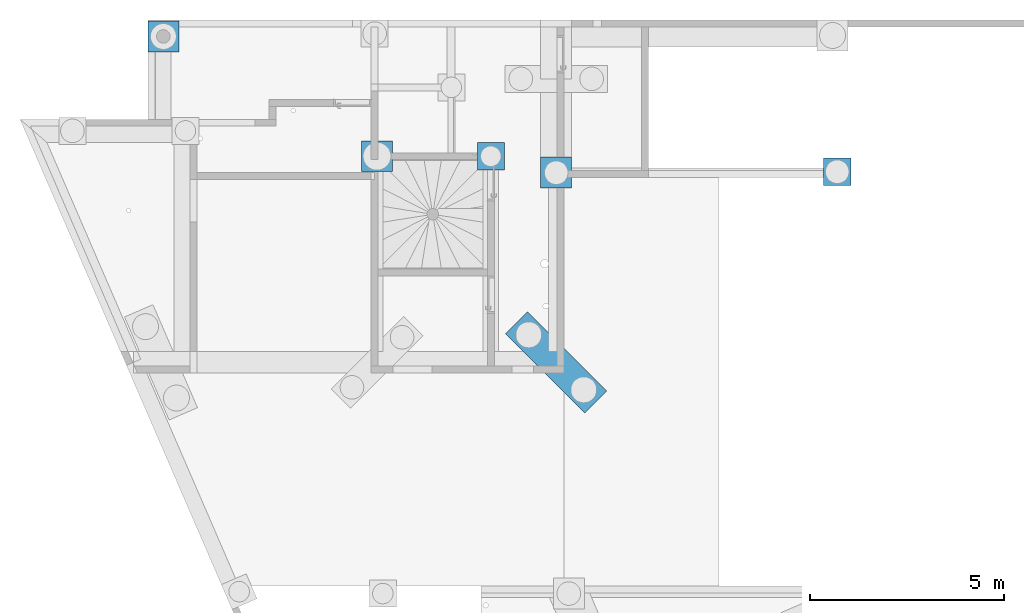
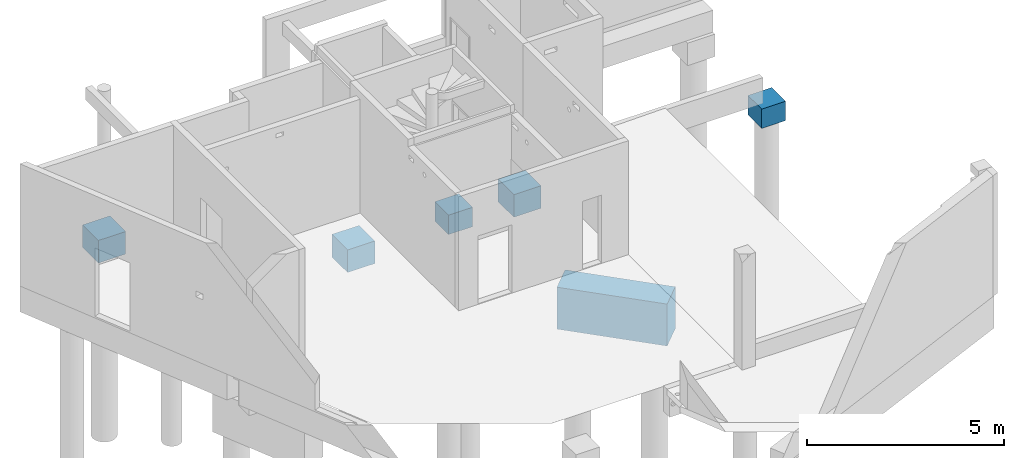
# One storey, part 11 of 29: 6 slabs.
"""IFC2X3 building model written with IfcOpenShell, lengths in centimetres."""

from ifc_helpers import new_model, entity, si_unit, converted_unit, derived_unit, direction, frame, origin, place, context, subcontext, project, spatial, faceted_brep, material, element, save


model = new_model("IFC2X3")

# Units and contexts
model_context = context("Model", 3, precision=0.001, world=origin(), true_north=direction((6.12303176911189e-17, 1.0)))
body_context = subcontext(model_context, "Body", "Model", "MODEL_VIEW")
ifc_project = project(units=[si_unit("LENGTHUNIT", "METRE", prefix="CENTI"), si_unit("AREAUNIT", "SQUARE_METRE"), si_unit("VOLUMEUNIT", "CUBIC_METRE"), converted_unit("PLANEANGLEUNIT", "DEGREE", entity("IfcRatioMeasure", 0.0174532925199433), si_unit("PLANEANGLEUNIT", "RADIAN"), dimensions=[0, 0, 0, 0, 0, 0, 0]), si_unit("MASSUNIT", "GRAM", prefix="KILO"), derived_unit("MASSDENSITYUNIT", [(si_unit("MASSUNIT", "GRAM", prefix="KILO"), 1), (si_unit("LENGTHUNIT", "METRE"), -3)]), si_unit("TIMEUNIT", "SECOND"), si_unit("FREQUENCYUNIT", "HERTZ"), si_unit("THERMODYNAMICTEMPERATUREUNIT", "DEGREE_CELSIUS"), derived_unit("THERMALTRANSMITTANCEUNIT", [(si_unit("MASSUNIT", "GRAM", prefix="KILO"), 1), (si_unit("THERMODYNAMICTEMPERATUREUNIT", "KELVIN"), -1), (si_unit("TIMEUNIT", "SECOND"), -3)]), derived_unit("VOLUMETRICFLOWRATEUNIT", [(si_unit("LENGTHUNIT", "METRE"), 3), (si_unit("TIMEUNIT", "SECOND"), -1)]), si_unit("ELECTRICCURRENTUNIT", "AMPERE"), si_unit("ELECTRICVOLTAGEUNIT", "VOLT"), si_unit("POWERUNIT", "WATT"), si_unit("FORCEUNIT", "NEWTON"), si_unit("ILLUMINANCEUNIT", "LUX"), si_unit("LUMINOUSFLUXUNIT", "LUMEN"), si_unit("LUMINOUSINTENSITYUNIT", "CANDELA"), derived_unit("USERDEFINED", [(si_unit("MASSUNIT", "GRAM", prefix="KILO"), -1), (si_unit("LENGTHUNIT", "METRE"), -2), (si_unit("TIMEUNIT", "SECOND"), 3), (si_unit("LUMINOUSFLUXUNIT", "LUMEN"), 1)]), derived_unit("LINEARVELOCITYUNIT", [(si_unit("LENGTHUNIT", "METRE"), 1), (si_unit("TIMEUNIT", "SECOND"), -1)]), si_unit("PRESSUREUNIT", "PASCAL"), derived_unit("USERDEFINED", [(si_unit("LENGTHUNIT", "METRE"), -2), (si_unit("MASSUNIT", "GRAM", prefix="KILO"), 1), (si_unit("TIMEUNIT", "SECOND"), -2)])], contexts=[model_context])

# Site, building, storey
site_placement = place(None, origin())
site = spatial("IfcSite", under=ifc_project, at=site_placement, Name="Default", CompositionType="ELEMENT")
building_placement = place(site_placement, origin())
building = spatial("IfcBuilding", under=site, at=building_placement, Name="CAGE 03", CompositionType="ELEMENT")
storey_placement = place(building_placement, frame((0.0, 0.0, -34.0)))
storey = spatial("IfcBuildingStorey", under=building, at=storey_placement, Name="+3.66", CompositionType="ELEMENT", Elevation=-34.0000000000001)

# Slabs
ifc_material = material(Name="Béton, C25/30")
slab_1_placement = place(storey_placement, frame((3077.36582014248, 5211.16066607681, -155.0)))
element("IfcSlab", 1, at=slab_1_placement, inside=storey, material=ifc_material, Name="M_Base-Rectangulaire:80x80x70ht", ObjectType="M_Base-Rectangulaire:80x80x70ht", PredefinedType="BASESLAB", context=body_context, shape_type="Brep", body=[
    faceted_brep([(80.0, 80.0, 70.0), (0.0, 80.0, 70.0), (0.0, 64.4999999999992, 70.0), (0.0, 0.0, 70.0), (80.0, 0.0, 70.0), (0.0, 0.0, 0.0), (15.2432012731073, 17.4311959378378, 0.0), (22.2051484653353, 14.7341232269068, 0.0), (29.1670956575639, 12.0370505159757, 0.0), (36.129042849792, 9.33997780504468, 0.0), (43.0909900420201, 6.64290509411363, 0.0), (80.0, 0.0, 0.0), (13.0574009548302, 23.0733969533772, 0.0), (10.8716006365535, 28.7155979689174, 0.0), (8.6858003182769, 34.3577989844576, 0.0), (6.49999999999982, 40.0, 0.0), (0.0, 80.0, 0.0), (8.68580031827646, 45.6422010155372, 0.0), (10.871600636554, 51.2844020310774, 0.0), (13.057400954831, 56.9266030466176, 0.0), (15.2432012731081, 62.568804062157, 0.0), (20.659653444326, 65.265876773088, 0.0), (26.0761056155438, 67.9629494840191, 0.0), (31.4925577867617, 70.6600221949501, 0.0), (36.9090099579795, 73.3570949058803, 0.0), (80.0, 80.0, 0.0), (73.5000000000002, 40.0, 0.0), (71.3141996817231, 45.6422010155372, 0.0), (43.8709571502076, 70.6600221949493, 0.0), (50.8329043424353, 67.9629494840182, 0.0), (57.7948515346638, 65.265876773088, 0.0), (64.7567987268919, 62.568804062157, 0.0), (69.128399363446, 51.2844020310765, 0.0), (66.942599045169, 56.9266030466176, 0.0), (48.5074422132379, 9.33997780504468, 0.0), (53.9238943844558, 12.0370505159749, 0.0), (59.3403465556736, 14.7341232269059, 0.0), (64.7567987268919, 17.431195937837, 0.0), (66.942599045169, 23.0733969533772, 0.0), (69.128399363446, 28.7155979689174, 0.0), (71.3141996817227, 34.3577989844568, 0.0), (64.7567987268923, 17.431195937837, 5.0), (57.7948515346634, 14.7341232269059, 5.0), (50.8329043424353, 12.0370505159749, 5.0), (43.8709571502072, 9.33997780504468, 5.0), (36.9090099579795, 6.64290509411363, 5.0), (31.4925577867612, 9.33997780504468, 5.0), (26.0761056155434, 12.0370505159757, 5.0), (20.6596534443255, 14.7341232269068, 5.0), (15.2432012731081, 17.4311959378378, 5.0), (13.0574009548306, 23.073396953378, 5.0), (10.8716006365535, 28.7155979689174, 5.0), (9.32055531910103, 32.7193074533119, 5.0), (6.50000000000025, 40.0, 5.0), (9.32055531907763, 47.2806925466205, 5.0), (10.871600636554, 51.2844020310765, 5.0), (13.057400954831, 56.9266030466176, 5.0), (15.2432012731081, 62.568804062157, 5.0), (22.2051484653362, 65.265876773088, 5.0), (29.1670956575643, 67.9629494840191, 5.0), (36.1290428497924, 70.6600221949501, 5.0), (43.0909900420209, 73.3570949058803, 5.0), (48.5074422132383, 70.6600221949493, 5.0), (53.9238943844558, 67.9629494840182, 5.0), (59.3403465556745, 65.265876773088, 5.0), (64.7567987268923, 62.568804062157, 5.0), (66.942599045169, 56.9266030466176, 5.0), (69.128399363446, 51.2844020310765, 5.0), (70.6794446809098, 47.2806925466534, 5.0), (73.5000000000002, 40.0, 5.0), (70.6794446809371, 32.7193074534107, 5.0), (69.128399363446, 28.7155979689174, 5.0), (66.942599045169, 23.0733969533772, 5.0)], [[[0, 1, 2, 3, 4]], [[5, 6, 7]], [[5, 7, 8]], [[5, 8, 9]], [[5, 9, 10]], [[5, 10, 11]], [[5, 12, 6]], [[5, 13, 12]], [[5, 14, 13]], [[5, 15, 14]], [[16, 15, 5]], [[16, 17, 15]], [[16, 18, 17]], [[16, 19, 18]], [[16, 20, 19]], [[16, 21, 20]], [[16, 22, 21]], [[16, 23, 22]], [[16, 24, 23]], [[25, 24, 16]], [[11, 26, 25]], [[25, 26, 27]], [[25, 28, 24]], [[25, 29, 28]], [[25, 30, 29]], [[25, 31, 30]], [[25, 27, 32]], [[25, 32, 33]], [[25, 33, 31]], [[11, 10, 34]], [[11, 34, 35]], [[11, 35, 36]], [[11, 36, 37]], [[11, 37, 38]], [[11, 38, 39]], [[11, 39, 40]], [[11, 40, 26]], [[2, 1, 16, 5, 3]], [[4, 3, 5, 11]], [[0, 4, 11, 25]], [[1, 0, 25, 16]], [[41, 42, 43, 44, 45, 46, 47, 48, 49, 50, 51, 52, 53, 54, 55, 56, 57, 58, 59, 60, 61, 62, 63, 64, 65, 66, 67, 68, 69, 70, 71, 72]], [[14, 15, 53, 52, 51, 50, 49, 6, 12, 13]], [[40, 39, 38, 37, 41, 72, 71, 70, 69, 26]], [[49, 48, 6]], [[48, 47, 7]], [[37, 36, 41]], [[43, 34, 44]], [[36, 42, 41]], [[10, 9, 45]], [[8, 7, 47]], [[48, 7, 6]], [[36, 35, 42]], [[42, 35, 43]], [[8, 46, 9]], [[10, 44, 34]], [[43, 35, 34]], [[45, 9, 46]], [[8, 47, 46]], [[10, 45, 44]], [[27, 26, 69, 68, 67, 66, 65, 31, 33, 32]], [[17, 18, 19, 20, 57, 56, 55, 54, 53, 15]], [[65, 64, 31]], [[64, 63, 30]], [[20, 21, 57]], [[59, 23, 60]], [[21, 58, 57]], [[24, 28, 61]], [[29, 30, 63]], [[64, 30, 31]], [[21, 22, 58]], [[58, 22, 59]], [[29, 62, 28]], [[24, 60, 23]], [[59, 22, 23]], [[61, 28, 62]], [[29, 63, 62]], [[24, 61, 60]]]),
])
slab_2_placement = place(storey_placement, frame((3629.36582014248, 4901.66066607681, -190.0)))
element("IfcSlab", 2, at=slab_2_placement, inside=storey, material=ifc_material, Name="M_Base-Rectangulaire:80x80x70ht", ObjectType="M_Base-Rectangulaire:80x80x70ht", PredefinedType="BASESLAB", context=body_context, shape_type="Brep", body=[
    faceted_brep([(80.0, 80.0, 70.0), (0.0, 80.0, 70.0), (0.0, 0.0, 70.0), (80.0, 0.0, 70.0), (0.0, 0.0, 0.0), (4.0, 40.0, 0.0), (6.34891974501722, 33.9367392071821, 0.0), (0.0, 80.0, 0.0), (8.69783949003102, 27.8734784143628, 0.0), (11.0467592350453, 21.8102176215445, 0.0), (13.3956789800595, 15.7469568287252, 0.0), (20.8771744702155, 12.8486100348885, 0.0), (28.3586699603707, 9.95026324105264, 0.0), (35.8401654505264, 7.05191644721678, 0.0), (43.3216609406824, 4.15356965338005, 0.0), (80.0, 0.0, 0.0), (6.34891974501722, 46.0632607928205, 0.0), (8.69783949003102, 52.1265215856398, 0.0), (11.0467592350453, 58.1897823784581, 0.0), (13.3956789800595, 64.2530431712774, 0.0), (19.2163439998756, 67.1513899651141, 0.0), (25.0370090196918, 70.04973675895, 0.0), (30.8576740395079, 72.9480835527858, 0.0), (36.6783390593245, 75.8464303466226, 0.0), (80.0, 80.0, 0.0), (76.0, 40.0, 0.0), (73.6510802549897, 46.0632607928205, 0.0), (71.302160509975, 52.1265215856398, 0.0), (68.9532407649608, 58.1897823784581, 0.0), (66.604321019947, 64.2530431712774, 0.0), (59.1228255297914, 67.1513899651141, 0.0), (51.6413300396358, 70.04973675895, 0.0), (44.1598345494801, 72.9480835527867, 0.0), (49.1423259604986, 7.05191644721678, 0.0), (54.9629909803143, 9.95026324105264, 0.0), (60.7836560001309, 12.8486100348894, 0.0), (66.604321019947, 15.7469568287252, 0.0), (68.9532407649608, 21.8102176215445, 0.0), (71.302160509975, 27.8734784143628, 0.0), (73.6510802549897, 33.9367392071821, 0.0), (28.3586699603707, 9.95026324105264, 5.0), (35.8401654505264, 7.05191644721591, 5.0), (43.321660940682, 4.15356965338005, 5.0), (13.3956789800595, 15.7469568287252, 5.0), (20.8771744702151, 12.8486100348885, 5.0), (66.604321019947, 15.7469568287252, 5.0), (68.9532407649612, 21.8102176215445, 5.0), (71.302160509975, 27.8734784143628, 5.0), (73.076093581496, 32.4525275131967, 5.0), (76.0, 40.0, 5.0), (4.0, 40.0, 5.0), (6.92390641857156, 32.4525275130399, 5.0), (9.8478128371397, 24.9050550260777, 5.0), (49.1423259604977, 7.05191644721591, 5.0), (54.9629909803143, 9.95026324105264, 5.0), (60.7836560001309, 12.8486100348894, 5.0), (66.604321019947, 64.2530431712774, 5.0), (59.1228255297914, 67.1513899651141, 5.0), (51.6413300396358, 70.04973675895, 5.0), (44.1598345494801, 72.9480835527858, 5.0), (36.6783390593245, 75.8464303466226, 5.0), (13.3956789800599, 64.2530431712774, 5.0), (11.0467592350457, 58.189782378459, 5.0), (8.69783949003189, 52.1265215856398, 5.0), (6.92390641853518, 47.5474724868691, 5.0), (73.0760935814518, 47.547472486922, 5.0), (70.1521871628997, 55.0949449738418, 5.0), (30.8576740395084, 72.9480835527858, 5.0), (25.0370090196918, 70.04973675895, 5.0), (19.2163439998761, 67.1513899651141, 5.0)], [[[0, 1, 2, 3]], [[4, 5, 6]], [[5, 4, 7]], [[4, 6, 8]], [[4, 8, 9]], [[4, 9, 10]], [[4, 10, 11]], [[4, 11, 12]], [[4, 12, 13]], [[4, 13, 14]], [[14, 15, 4]], [[7, 16, 5]], [[7, 17, 16]], [[7, 18, 17]], [[7, 19, 18]], [[7, 20, 19]], [[7, 21, 20]], [[7, 22, 21]], [[7, 23, 22]], [[23, 7, 24]], [[25, 24, 15]], [[24, 25, 26]], [[24, 26, 27]], [[24, 27, 28]], [[24, 28, 29]], [[24, 29, 30]], [[24, 30, 31]], [[24, 31, 32]], [[24, 32, 23]], [[15, 14, 33]], [[15, 33, 34]], [[15, 34, 35]], [[15, 35, 36]], [[15, 36, 37]], [[15, 37, 38]], [[15, 38, 39]], [[15, 39, 25]], [[2, 1, 7, 4]], [[3, 2, 4, 15]], [[0, 3, 15, 24]], [[1, 0, 24, 7]], [[40, 41, 42, 14, 13, 12, 11, 10, 43, 44]], [[39, 38, 37, 36, 45, 46, 47, 48, 49, 25]], [[10, 9, 8, 6, 5, 50, 51, 52, 43]], [[33, 14, 42, 53, 54, 55, 45, 36, 35, 34]], [[30, 29, 56, 57, 58, 59, 60, 23, 32, 31]], [[16, 17, 18, 19, 61, 62, 63, 64, 50, 5]], [[29, 28, 27, 26, 25, 49, 65, 66, 56]], [[22, 23, 60, 67, 68, 69, 61, 19, 20, 21]], [[50, 64, 63, 62, 61, 69, 68, 67, 60, 59, 58, 57, 56, 66, 65, 49, 48, 47, 46, 45, 55, 54, 53, 42, 41, 40, 44, 43, 52, 51]]]),
])
slab_3_placement = place(storey_placement, frame((3928.36582014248, 4906.66066607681, -180.0)))
element("IfcSlab", 3, at=slab_3_placement, inside=storey, material=ifc_material, Name="M_Base-Rectangulaire:70x70x60ht", ObjectType="M_Base-Rectangulaire:70x70x60ht", PredefinedType="BASESLAB", context=body_context, shape_type="Brep", body=[
    faceted_brep([(70.0, 70.0, 60.0), (0.0, 70.0, 60.0), (0.0, 0.0, 60.0), (70.0, 0.0, 60.0), (0.0, 0.0, 0.0), (8.50000000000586, 35.0, 0.0), (10.6920097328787, 30.0766655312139, 0.0), (0.0, 70.0, 0.0), (12.8840194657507, 25.1533310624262, 0.0), (15.0760291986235, 20.2299965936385, 0.0), (17.2680389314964, 15.3066621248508, 0.0), (22.3935302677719, 13.6412890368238, 0.0), (27.5190216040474, 11.9759159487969, 0.0), (32.6445129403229, 10.3105428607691, 0.0), (37.7700042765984, 8.64516977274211, 0.0), (70.0, 0.0, 0.0), (11.0305248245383, 42.7881545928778, 0.0), (13.5610496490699, 50.5763091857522, 0.0), (18.2282861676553, 53.2709394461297, 0.0), (22.8955226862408, 55.9655697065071, 0.0), (27.5627592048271, 58.6601999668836, 0.0), (32.2299957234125, 61.354830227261, 0.0), (70.0, 70.0, 0.0), (61.5000000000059, 35.0, 0.0), (59.3079902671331, 39.9233344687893, 0.0), (57.1159805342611, 44.846668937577, 0.0), (54.9239708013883, 49.7700034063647, 0.0), (52.7319610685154, 54.6933378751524, 0.0), (47.6064697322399, 56.3587109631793, 0.0), (42.4809783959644, 58.0240840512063, 0.0), (37.355487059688, 59.6894571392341, 0.0), (42.4372407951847, 11.3398000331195, 0.0), (47.1044773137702, 14.0344302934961, 0.0), (51.7717138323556, 16.7290605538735, 0.0), (56.4389503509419, 19.4236908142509, 0.0), (58.9694751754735, 27.2118454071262, 0.0), (8.50000000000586, 35.0, 5.0), (11.3061340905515, 28.6973196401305, 5.0), (14.1122681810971, 22.3946392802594, 5.0), (17.2680389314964, 15.3066621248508, 5.0), (37.7700042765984, 8.64516977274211, 5.0), (42.4372407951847, 11.3398000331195, 5.0), (47.1044773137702, 14.0344302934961, 5.0), (51.7717138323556, 16.7290605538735, 5.0), (56.4389503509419, 19.4236908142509, 5.0), (32.6445129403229, 10.3105428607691, 5.0), (22.3935302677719, 13.6412890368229, 5.0), (27.5190216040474, 11.9759159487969, 5.0), (58.9694751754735, 27.2118454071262, 5.0), (61.5000000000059, 35.0, 5.0), (58.6938659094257, 41.3026803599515, 5.0), (55.8877318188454, 47.6053607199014, 5.0), (52.7319610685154, 54.6933378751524, 5.0), (32.2299957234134, 61.354830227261, 5.0), (27.5627592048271, 58.6601999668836, 5.0), (22.8955226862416, 55.9655697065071, 5.0), (18.2282861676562, 53.2709394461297, 5.0), (13.5610496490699, 50.5763091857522, 5.0), (37.3554870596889, 59.6894571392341, 5.0), (47.6064697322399, 56.3587109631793, 5.0), (42.4809783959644, 58.0240840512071, 5.0), (11.0305248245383, 42.7881545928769, 5.0)], [[[0, 1, 2, 3]], [[4, 5, 6]], [[5, 4, 7]], [[4, 6, 8]], [[4, 8, 9]], [[4, 9, 10]], [[4, 10, 11]], [[4, 11, 12]], [[4, 12, 13]], [[4, 13, 14]], [[14, 15, 4]], [[7, 16, 5]], [[7, 17, 16]], [[7, 18, 17]], [[7, 19, 18]], [[7, 20, 19]], [[7, 21, 20]], [[21, 7, 22]], [[23, 22, 15]], [[22, 23, 24]], [[22, 24, 25]], [[22, 25, 26]], [[22, 26, 27]], [[22, 27, 28]], [[22, 28, 29]], [[22, 29, 30]], [[22, 30, 21]], [[15, 14, 31]], [[15, 31, 32]], [[15, 32, 33]], [[15, 33, 34]], [[15, 34, 35]], [[15, 35, 23]], [[2, 1, 7, 4]], [[3, 2, 4, 15]], [[0, 3, 15, 22]], [[1, 0, 22, 7]], [[10, 9, 8, 6, 5, 36, 37, 38, 39]], [[33, 32, 31, 14, 40, 41, 42, 43, 44, 34]], [[45, 40, 14, 13, 12, 11, 10, 39, 46, 47]], [[35, 34, 44, 48, 49, 23]], [[27, 26, 25, 24, 23, 49, 50, 51, 52]], [[18, 19, 20, 21, 53, 54, 55, 56, 57, 17]], [[58, 53, 21, 30, 29, 28, 27, 52, 59, 60]], [[16, 17, 57, 61, 36, 5]], [[39, 38, 37, 36, 61, 57, 56, 55, 54, 53, 58, 60, 59, 52, 51, 50, 49, 48, 44, 43, 42, 41, 40, 45, 47, 46]]]),
])
slab_4_placement = place(storey_placement, frame((4092.36582014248, 4859.16066607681, -155.0)))
element("IfcSlab", 4, at=slab_4_placement, inside=storey, material=ifc_material, Name="M_Base-Rectangulaire:80x80x70ht", ObjectType="M_Base-Rectangulaire:80x80x70ht", PredefinedType="BASESLAB", context=body_context, shape_type="Brep", body=[
    faceted_brep([(80.0, 80.0, 70.0), (0.0, 80.0, 70.0), (0.0, 27.4999999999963, 70.0), (0.0, 0.0, 70.0), (80.0, 0.0, 70.0), (80.0, 27.4999999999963, 70.0), (0.0, 0.0, 0.0), (18.4332431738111, 18.4332431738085, 0.0), (23.824932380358, 16.1999323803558, 0.0), (29.2166215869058, 13.9666215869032, 0.0), (34.6083107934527, 11.7333107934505, 0.0), (40.0, 9.49999999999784, 0.0), (80.0, 0.0, 0.0), (16.1999323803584, 23.8249323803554, 0.0), (13.9666215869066, 29.2166215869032, 0.0), (11.733310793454, 34.6083107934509, 0.0), (9.50000000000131, 40.0, 0.0), (0.0, 80.0, 0.0), (11.733310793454, 45.3916892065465, 0.0), (13.9666215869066, 50.7833784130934, 0.0), (16.1999323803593, 56.1750676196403, 0.0), (18.433243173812, 61.566756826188, 0.0), (23.8249323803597, 63.8000676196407, 0.0), (29.2166215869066, 66.0333784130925, 0.0), (34.6083107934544, 68.266689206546, 0.0), (40.0, 70.4999999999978, 0.0), (80.0, 80.0, 0.0), (70.5000000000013, 40.0, 0.0), (68.2666892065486, 45.3916892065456, 0.0), (45.3916892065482, 68.2666892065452, 0.0), (50.783378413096, 66.0333784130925, 0.0), (56.1750676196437, 63.8000676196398, 0.0), (61.5667568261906, 61.5667568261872, 0.0), (66.033378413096, 50.7833784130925, 0.0), (63.8000676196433, 56.1750676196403, 0.0), (45.3916892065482, 11.7333107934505, 0.0), (50.7833784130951, 13.9666215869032, 0.0), (56.1750676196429, 16.199932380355, 0.0), (61.5667568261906, 18.4332431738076, 0.0), (63.8000676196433, 23.8249323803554, 0.0), (66.033378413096, 29.2166215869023, 0.0), (68.2666892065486, 34.6083107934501, 0.0), (40.0, 70.4999999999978, 5.0), (45.3916892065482, 68.2666892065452, 5.0), (50.783378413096, 66.0333784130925, 5.0), (56.1750676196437, 63.8000676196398, 5.0), (61.5667568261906, 61.5667568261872, 5.0), (64.8147856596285, 53.7253215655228, 5.0), (67.6573928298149, 46.8626607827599, 5.0), (70.5000000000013, 40.0, 5.0), (67.6573928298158, 33.1373392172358, 5.0), (66.033378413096, 29.2166215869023, 5.0), (63.8000676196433, 23.8249323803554, 5.0), (61.5667568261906, 18.4332431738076, 5.0), (56.1750676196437, 16.199932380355, 5.0), (50.783378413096, 13.9666215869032, 5.0), (45.3916892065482, 11.7333107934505, 5.0), (40.0, 9.49999999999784, 5.0), (34.6083107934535, 11.7333107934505, 5.0), (29.2166215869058, 13.9666215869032, 5.0), (23.8249323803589, 16.1999323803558, 5.0), (18.4332431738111, 18.4332431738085, 5.0), (15.1852143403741, 26.274678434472, 5.0), (12.3426071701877, 33.1373392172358, 5.0), (9.50000000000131, 40.0, 5.0), (12.3426071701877, 46.8626607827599, 5.0), (13.9666215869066, 50.7833784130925, 5.0), (16.1999323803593, 56.1750676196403, 5.0), (18.433243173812, 61.5667568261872, 5.0), (23.8249323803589, 63.8000676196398, 5.0), (29.2166215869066, 66.0333784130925, 5.0), (34.6083107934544, 68.2666892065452, 5.0)], [[[0, 1, 2, 3, 4, 5]], [[6, 7, 8]], [[6, 8, 9]], [[6, 9, 10]], [[6, 10, 11]], [[6, 11, 12]], [[6, 13, 7]], [[6, 14, 13]], [[6, 15, 14]], [[6, 16, 15]], [[17, 16, 6]], [[17, 18, 16]], [[17, 19, 18]], [[17, 20, 19]], [[17, 21, 20]], [[17, 22, 21]], [[17, 23, 22]], [[17, 24, 23]], [[17, 25, 24]], [[26, 25, 17]], [[12, 27, 26]], [[26, 27, 28]], [[26, 29, 25]], [[26, 30, 29]], [[26, 31, 30]], [[26, 32, 31]], [[26, 28, 33]], [[26, 33, 34]], [[26, 34, 32]], [[12, 11, 35]], [[12, 35, 36]], [[12, 36, 37]], [[12, 37, 38]], [[12, 38, 39]], [[12, 39, 40]], [[12, 40, 41]], [[12, 41, 27]], [[2, 1, 17, 6, 3]], [[4, 3, 6, 12]], [[5, 4, 12, 26, 0]], [[1, 0, 26, 17]], [[42, 43, 44, 45, 46, 47, 48, 49, 50, 51, 52, 53, 54, 55, 56, 57, 58, 59, 60, 61, 62, 63, 64, 65, 66, 67, 68, 69, 70, 71]], [[7, 61, 60, 59, 58, 57, 11, 10, 9, 8]], [[41, 40, 39, 38, 53, 52, 51, 50, 49, 27]], [[7, 13, 14, 15, 16, 64, 63, 62, 61]], [[35, 11, 57, 56, 55, 54, 53, 38, 37, 36]], [[32, 46, 45, 44, 43, 42, 25, 29, 30, 31]], [[18, 19, 20, 21, 68, 67, 66, 65, 64, 16]], [[32, 34, 33, 28, 27, 49, 48, 47, 46]], [[24, 25, 42, 71, 70, 69, 68, 21, 22, 23]]]),
])
slab_5_placement = place(storey_placement, frame((4823.36582014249, 4866.66066607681, -140.0)))
element("IfcSlab", 5, at=slab_5_placement, inside=storey, material=ifc_material, Name="M_Base-Rectangulaire:70x70x60ht", ObjectType="M_Base-Rectangulaire:70x70x60ht", PredefinedType="BASESLAB", context=body_context, shape_type="Brep", body=[
    faceted_brep([(70.0, 70.0, 60.0), (0.0, 70.0, 60.0), (0.0, 0.0, 60.0), (70.0, 0.0, 60.0), (0.0, 0.0, 0.0), (4.49999999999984, 35.0, 0.0), (6.73331079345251, 29.6083107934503, 0.0), (0.0, 70.0, 0.0), (8.9666215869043, 24.2166215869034, 0.0), (11.199932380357, 18.8249323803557, 0.0), (13.4332431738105, 13.4332431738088, 0.0), (18.8249323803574, 11.1999323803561, 0.0), (24.2166215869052, 8.96662158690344, 0.0), (29.6083107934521, 6.73331079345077, 0.0), (35.0, 4.49999999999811, 0.0), (70.0, 0.0, 0.0), (6.73331079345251, 40.391689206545, 0.0), (8.9666215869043, 45.7833784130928, 0.0), (11.199932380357, 51.1750676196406, 0.0), (13.4332431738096, 56.5667568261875, 0.0), (18.8249323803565, 58.8000676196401, 0.0), (24.2166215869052, 61.0333784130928, 0.0), (29.6083107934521, 63.2666892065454, 0.0), (35.0, 65.4999999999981, 0.0), (70.0, 70.0, 0.0), (65.4999999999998, 35.0, 0.0), (63.2666892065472, 40.3916892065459, 0.0), (61.0333784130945, 45.7833784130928, 0.0), (58.8000676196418, 51.1750676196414, 0.0), (56.5667568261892, 56.5667568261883, 0.0), (51.1750676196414, 58.800067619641, 0.0), (45.7833784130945, 61.0333784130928, 0.0), (40.3916892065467, 63.2666892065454, 0.0), (40.3916892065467, 6.73331079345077, 0.0), (45.7833784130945, 8.96662158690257, 0.0), (51.1750676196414, 11.1999323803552, 0.0), (56.5667568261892, 13.4332431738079, 0.0), (58.8000676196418, 18.8249323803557, 0.0), (61.0333784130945, 24.2166215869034, 0.0), (63.2666892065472, 29.6083107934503, 0.0), (35.0, 65.4999999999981, 5.0), (40.3916892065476, 63.2666892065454, 5.0), (45.7833784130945, 61.0333784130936, 5.0), (51.1750676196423, 58.8000676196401, 5.0), (56.5667568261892, 56.5667568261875, 5.0), (59.814785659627, 48.7253215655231, 5.0), (62.6573928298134, 41.8626607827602, 5.0), (65.4999999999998, 35.0, 5.0), (62.6573928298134, 28.137339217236, 5.0), (61.0333784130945, 24.2166215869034, 5.0), (58.8000676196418, 18.8249323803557, 5.0), (56.5667568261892, 13.4332431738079, 5.0), (51.1750676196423, 11.1999323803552, 5.0), (45.7833784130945, 8.96662158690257, 5.0), (40.3916892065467, 6.73331079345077, 5.0), (35.0, 4.49999999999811, 5.0), (29.6083107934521, 6.73331079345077, 5.0), (24.2166215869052, 8.96662158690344, 5.0), (18.8249323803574, 11.1999323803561, 5.0), (13.4332431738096, 13.4332431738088, 5.0), (10.1852143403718, 21.2746784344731, 5.0), (7.34260717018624, 28.137339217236, 5.0), (4.49999999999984, 35.0, 5.0), (7.34260717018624, 41.8626607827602, 5.0), (8.9666215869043, 45.7833784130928, 5.0), (11.1999323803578, 51.1750676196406, 5.0), (13.4332431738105, 56.5667568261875, 5.0), (18.8249323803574, 58.8000676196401, 5.0), (24.2166215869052, 61.0333784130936, 5.0), (29.6083107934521, 63.2666892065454, 5.0)], [[[0, 1, 2, 3]], [[4, 5, 6]], [[5, 4, 7]], [[4, 6, 8]], [[4, 8, 9]], [[4, 9, 10]], [[4, 10, 11]], [[4, 11, 12]], [[4, 12, 13]], [[4, 13, 14]], [[14, 15, 4]], [[7, 16, 5]], [[7, 17, 16]], [[7, 18, 17]], [[7, 19, 18]], [[7, 20, 19]], [[7, 21, 20]], [[7, 22, 21]], [[7, 23, 22]], [[23, 7, 24]], [[25, 24, 15]], [[24, 25, 26]], [[24, 26, 27]], [[24, 27, 28]], [[24, 28, 29]], [[24, 29, 30]], [[24, 30, 31]], [[24, 31, 32]], [[24, 32, 23]], [[15, 14, 33]], [[15, 33, 34]], [[15, 34, 35]], [[15, 35, 36]], [[15, 36, 37]], [[15, 37, 38]], [[15, 38, 39]], [[15, 39, 25]], [[2, 1, 7, 4]], [[3, 2, 4, 15]], [[0, 3, 15, 24]], [[1, 0, 24, 7]], [[40, 41, 42, 43, 44, 45, 46, 47, 48, 49, 50, 51, 52, 53, 54, 55, 56, 57, 58, 59, 60, 61, 62, 63, 64, 65, 66, 67, 68, 69]], [[10, 59, 58, 57, 56, 55, 14, 13, 12, 11]], [[39, 38, 37, 36, 51, 50, 49, 48, 47, 25]], [[10, 9, 8, 6, 5, 62, 61, 60, 59]], [[33, 14, 55, 54, 53, 52, 51, 36, 35, 34]], [[29, 44, 43, 42, 41, 40, 23, 32, 31, 30]], [[16, 17, 18, 19, 66, 65, 64, 63, 62, 5]], [[29, 28, 27, 26, 25, 47, 46, 45, 44]], [[22, 23, 40, 69, 68, 67, 66, 19, 20, 21]]]),
])
slab_6_placement = place(storey_placement, frame((4001.55106562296, 4278.3459115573, -242.0)))
element("IfcSlab", 6, at=slab_6_placement, inside=storey, material=ifc_material, Name="M_Base-Rectangulaire:290x80x130ht", ObjectType="M_Base-Rectangulaire:290x80x130ht", PredefinedType="BASESLAB", context=body_context, shape_type="Brep", body=[
    faceted_brep([(56.5685424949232, 261.629509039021, 130.0), (0.0, 205.060966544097, 130.0), (205.060966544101, 0.0, 130.0), (261.629509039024, 56.5685424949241, 130.0), (224.447790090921, 84.5073217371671, 0.0), (82.3193270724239, 226.635784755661, 0.0), (56.5685424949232, 261.629509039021, 0.0), (261.629509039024, 56.5685424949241, 0.0), (85.016399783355, 221.219332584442, 0.0), (87.7134724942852, 215.802880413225, 0.0), (90.4105452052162, 210.386428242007, 0.0), (93.1076179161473, 204.969976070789, 0.0), (218.805589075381, 86.6931220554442, 0.0), (227.144862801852, 79.0908695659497, 0.0), (213.163388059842, 88.8789223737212, 0.0), (207.521187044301, 91.0647226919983, 0.0), (201.878986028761, 93.2505230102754, 0.0), (196.236785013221, 91.0647226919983, 0.0), (190.594583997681, 88.8789223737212, 0.0), (184.952382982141, 86.6931220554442, 0.0), (179.310181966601, 84.5073217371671, 0.0), (90.4105452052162, 198.008028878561, 0.0), (87.7134724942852, 191.046081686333, 0.0), (85.016399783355, 184.084134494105, 0.0), (82.3193270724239, 177.122187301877, 0.0), (176.61310925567, 77.545374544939, 0.0), (173.91603654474, 70.5834273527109, 0.0), (171.218963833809, 63.6214801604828, 0.0), (168.521891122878, 56.6595329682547, 0.0), (76.6771260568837, 174.9363869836, 0.0), (71.0349250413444, 172.750586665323, 0.0), (65.3927240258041, 170.564786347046, 0.0), (59.7505230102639, 168.378986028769, 0.0), (54.1083219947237, 170.564786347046, 0.0), (48.4661209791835, 172.750586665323, 0.0), (42.8239199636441, 174.9363869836, 0.0), (37.1817189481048, 177.122187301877, 0.0), (171.218963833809, 51.2430807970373, 0.0), (173.91603654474, 45.826628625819, 0.0), (176.613109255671, 40.4101764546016, 0.0), (179.310181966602, 34.9937242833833, 0.0), (205.060966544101, 0.0, 0.0), (184.952382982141, 32.8079239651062, 0.0), (190.594583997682, 30.6221236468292, 0.0), (196.236785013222, 28.4363233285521, 0.0), (201.878986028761, 26.250523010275, 0.0), (207.521187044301, 28.4363233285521, 0.0), (213.163388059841, 30.6221236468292, 0.0), (218.805589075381, 32.8079239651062, 0.0), (224.447790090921, 34.9937242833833, 0.0), (227.144862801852, 41.9556714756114, 0.0), (229.841935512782, 48.9176186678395, 0.0), (232.539008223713, 55.8795658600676, 0.0), (235.236080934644, 62.8415130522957, 0.0), (232.539008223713, 68.2579652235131, 0.0), (229.841935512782, 73.6744173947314, 0.0), (0.0, 205.060966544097, 0.0), (37.1817189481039, 226.635784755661, 0.0), (34.4846462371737, 219.673837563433, 0.0), (34.4846462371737, 182.538639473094, 0.0), (31.7875735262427, 187.955091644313, 0.0), (29.0905008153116, 193.371543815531, 0.0), (26.3934281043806, 198.787995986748, 0.0), (31.7875735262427, 212.711890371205, 0.0), (29.0905008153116, 205.749943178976, 0.0), (76.6771260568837, 228.821585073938, 0.0), (71.0349250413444, 231.007385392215, 0.0), (65.3927240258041, 233.193185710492, 0.0), (59.7505230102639, 235.378986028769, 0.0), (54.1083219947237, 233.193185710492, 0.0), (48.4661209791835, 231.007385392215, 0.0), (42.8239199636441, 228.821585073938, 0.0), (224.447790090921, 84.5073217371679, 5.0), (227.144862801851, 77.545374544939, 5.0), (229.841935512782, 70.5834273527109, 5.0), (232.539008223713, 63.6214801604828, 5.0), (235.236080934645, 56.6595329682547, 5.0), (232.539008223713, 51.2430807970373, 5.0), (229.841935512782, 45.826628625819, 5.0), (227.144862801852, 40.4101764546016, 5.0), (224.447790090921, 34.9937242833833, 5.0), (218.805589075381, 32.8079239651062, 5.0), (213.163388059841, 30.6221236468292, 5.0), (209.159678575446, 29.0710783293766, 5.0), (201.878986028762, 26.250523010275, 5.0), (194.598293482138, 29.0710783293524, 5.0), (190.594583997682, 30.6221236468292, 5.0), (184.952382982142, 32.8079239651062, 5.0), (179.310181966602, 34.9937242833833, 5.0), (176.613109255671, 41.9556714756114, 5.0), (173.91603654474, 48.9176186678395, 5.0), (171.218963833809, 55.8795658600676, 5.0), (168.521891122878, 62.8415130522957, 5.0), (171.218963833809, 68.2579652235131, 5.0), (173.916036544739, 73.6744173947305, 5.0), (176.61310925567, 79.0908695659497, 5.0), (179.310181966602, 84.5073217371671, 5.0), (184.952382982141, 86.6931220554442, 5.0), (190.594583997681, 88.8789223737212, 5.0), (194.598293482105, 90.429967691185, 5.0), (201.878986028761, 93.2505230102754, 5.0), (209.159678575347, 90.4299676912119, 5.0), (213.163388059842, 88.8789223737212, 5.0), (218.805589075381, 86.6931220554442, 5.0), (82.3193270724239, 226.635784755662, 5.0), (85.0163997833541, 219.673837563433, 5.0), (87.7134724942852, 212.711890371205, 5.0), (90.4105452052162, 205.749943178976, 5.0), (93.1076179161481, 198.787995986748, 5.0), (90.4105452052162, 193.371543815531, 5.0), (87.7134724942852, 187.955091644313, 5.0), (85.016399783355, 182.538639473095, 5.0), (82.3193270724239, 177.122187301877, 5.0), (76.6771260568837, 174.9363869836, 5.0), (71.0349250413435, 172.750586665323, 5.0), (67.031215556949, 171.19954134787, 5.0), (59.7505230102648, 168.378986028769, 5.0), (52.4698304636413, 171.199541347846, 5.0), (48.4661209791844, 172.750586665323, 5.0), (42.823919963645, 174.9363869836, 5.0), (37.1817189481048, 177.122187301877, 5.0), (34.4846462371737, 184.084134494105, 5.0), (31.7875735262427, 191.046081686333, 5.0), (29.0905008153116, 198.008028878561, 5.0), (26.3934281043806, 204.969976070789, 5.0), (29.0905008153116, 210.386428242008, 5.0), (31.7875735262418, 215.802880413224, 5.0), (34.4846462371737, 221.219332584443, 5.0), (37.1817189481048, 226.635784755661, 5.0), (42.8239199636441, 228.821585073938, 5.0), (48.4661209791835, 231.007385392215, 5.0), (52.4698304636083, 232.558430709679, 5.0), (59.7505230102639, 235.378986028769, 5.0), (67.0312155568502, 232.558430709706, 5.0), (71.0349250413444, 231.007385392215, 5.0), (76.6771260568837, 228.821585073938, 5.0)], [[[0, 1, 2, 3]], [[4, 5, 6]], [[6, 7, 4]], [[4, 8, 5]], [[4, 9, 8]], [[4, 10, 9]], [[4, 11, 10]], [[11, 4, 12]], [[7, 13, 4]], [[11, 12, 14]], [[11, 14, 15]], [[11, 15, 16]], [[11, 16, 17]], [[11, 17, 18]], [[11, 18, 19]], [[11, 19, 20]], [[20, 21, 11]], [[20, 22, 21]], [[20, 23, 22]], [[20, 24, 23]], [[24, 20, 25]], [[24, 25, 26]], [[24, 26, 27]], [[24, 27, 28]], [[28, 29, 24]], [[28, 30, 29]], [[28, 31, 30]], [[28, 32, 31]], [[28, 33, 32]], [[28, 34, 33]], [[28, 35, 34]], [[28, 36, 35]], [[36, 28, 37]], [[36, 37, 38]], [[36, 38, 39]], [[36, 39, 40]], [[36, 40, 41]], [[41, 40, 42]], [[41, 42, 43]], [[41, 43, 44]], [[41, 44, 45]], [[41, 45, 46]], [[41, 46, 47]], [[41, 47, 48]], [[41, 48, 49]], [[7, 49, 50]], [[7, 41, 49]], [[7, 50, 51]], [[7, 51, 52]], [[7, 52, 53]], [[7, 53, 54]], [[7, 54, 55]], [[7, 55, 13]], [[41, 56, 36]], [[57, 56, 6]], [[56, 57, 58]], [[56, 59, 36]], [[56, 60, 59]], [[56, 61, 60]], [[56, 62, 61]], [[56, 58, 63]], [[56, 63, 64]], [[56, 64, 62]], [[6, 5, 65]], [[6, 65, 66]], [[6, 66, 67]], [[6, 67, 68]], [[6, 68, 69]], [[6, 69, 70]], [[6, 70, 71]], [[6, 71, 57]], [[6, 56, 1, 0]], [[7, 6, 0, 3]], [[41, 7, 3, 2]], [[56, 41, 2, 1]], [[72, 73, 74, 75, 76, 77, 78, 79, 80, 81, 82, 83, 84, 85, 86, 87, 88, 89, 90, 91, 92, 93, 94, 95, 96, 97, 98, 99, 100, 101, 102, 103]], [[104, 105, 106, 107, 108, 109, 110, 111, 112, 113, 114, 115, 116, 117, 118, 119, 120, 121, 122, 123, 124, 125, 126, 127, 128, 129, 130, 131, 132, 133, 134, 135]], [[46, 45, 84, 83, 82, 81, 80, 49, 48, 47]], [[15, 14, 12, 4, 72, 103, 102, 101, 100, 16]], [[80, 79, 49]], [[79, 78, 50]], [[4, 13, 72]], [[74, 54, 75]], [[13, 73, 72]], [[53, 52, 76]], [[51, 50, 78]], [[79, 50, 49]], [[13, 55, 73]], [[73, 55, 74]], [[51, 77, 52]], [[53, 75, 54]], [[74, 55, 54]], [[76, 52, 77]], [[51, 78, 77]], [[53, 76, 75]], [[17, 16, 100, 99, 98, 97, 96, 20, 19, 18]], [[44, 43, 42, 40, 88, 87, 86, 85, 84, 45]], [[96, 95, 20]], [[95, 94, 25]], [[40, 39, 88]], [[90, 37, 91]], [[39, 89, 88]], [[28, 27, 92]], [[26, 25, 94]], [[95, 25, 20]], [[39, 38, 89]], [[89, 38, 90]], [[26, 93, 27]], [[28, 91, 37]], [[90, 38, 37]], [[92, 27, 93]], [[26, 94, 93]], [[28, 92, 91]], [[31, 32, 116, 115, 114, 113, 112, 24, 29, 30]], [[67, 66, 65, 5, 104, 135, 134, 133, 132, 68]], [[112, 111, 24]], [[111, 110, 23]], [[5, 8, 104]], [[106, 10, 107]], [[8, 105, 104]], [[11, 21, 108]], [[22, 23, 110]], [[111, 23, 24]], [[8, 9, 105]], [[105, 9, 106]], [[22, 109, 21]], [[11, 107, 10]], [[106, 9, 10]], [[108, 21, 109]], [[22, 110, 109]], [[11, 108, 107]], [[69, 68, 132, 131, 130, 129, 128, 57, 71, 70]], [[33, 34, 35, 36, 120, 119, 118, 117, 116, 32]], [[128, 127, 57]], [[127, 126, 58]], [[36, 59, 120]], [[122, 61, 123]], [[59, 121, 120]], [[62, 64, 124]], [[63, 58, 126]], [[127, 58, 57]], [[59, 60, 121]], [[121, 60, 122]], [[63, 125, 64]], [[62, 123, 61]], [[122, 60, 61]], [[124, 64, 125]], [[63, 126, 125]], [[62, 124, 123]]]),
])

save(model, "model.ifc")
